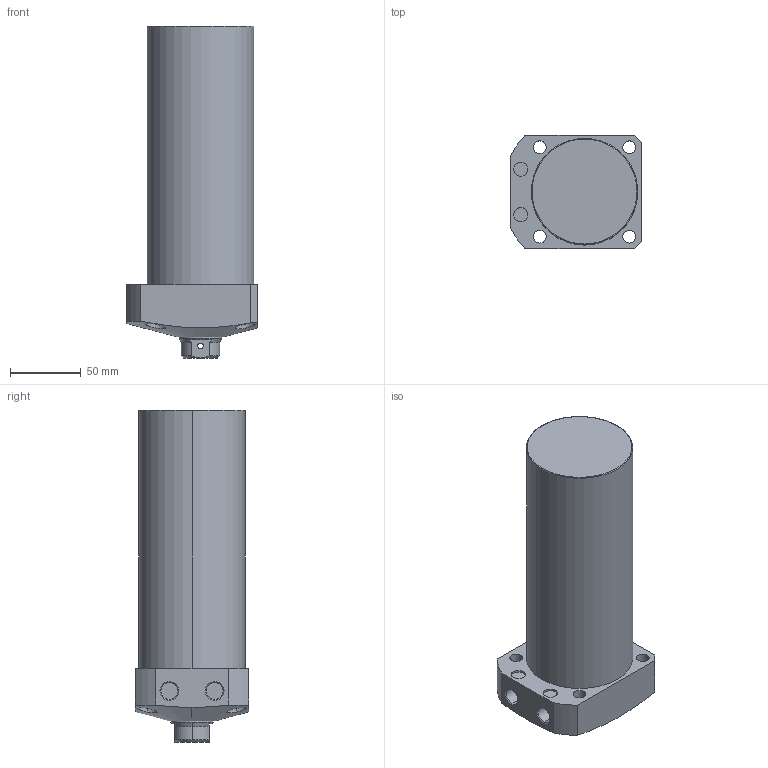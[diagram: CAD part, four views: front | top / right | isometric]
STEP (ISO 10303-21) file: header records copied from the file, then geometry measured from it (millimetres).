
FILE_DESCRIPTION (( 'STEP AP203' ), '1' );
FILE_NAME ('CLL-075CB-145.STEP', '2019-12-24T00:25:34', ( '' ), ( '' ), 'SwSTEP 2.0', 'SolidWorks 2015', '' );
FILE_SCHEMA (( 'CONFIG_CONTROL_DESIGN' ));
Length unit declared in the file: millimetre
Products named in the file (1): CLL-075CB-145
Bounding box: 92 x 80 x 234 mm (x, y, z)
Volume: 1022981.9 mm3; surface area: 75295.9 mm2
Topology: 1 solids, 1 shells, 78 faces, 183 edges, 116 vertices
Faces by surface type: cylinder 39, plane 22, cone 15, torus 2
Entity records: 2862 total; most frequent: CARTESIAN_POINT 955, DIRECTION 396, ORIENTED_EDGE 362, EDGE_CURVE 181, AXIS2_PLACEMENT_3D 164, VERTEX_POINT 116, EDGE_LOOP 101, CIRCLE 85
